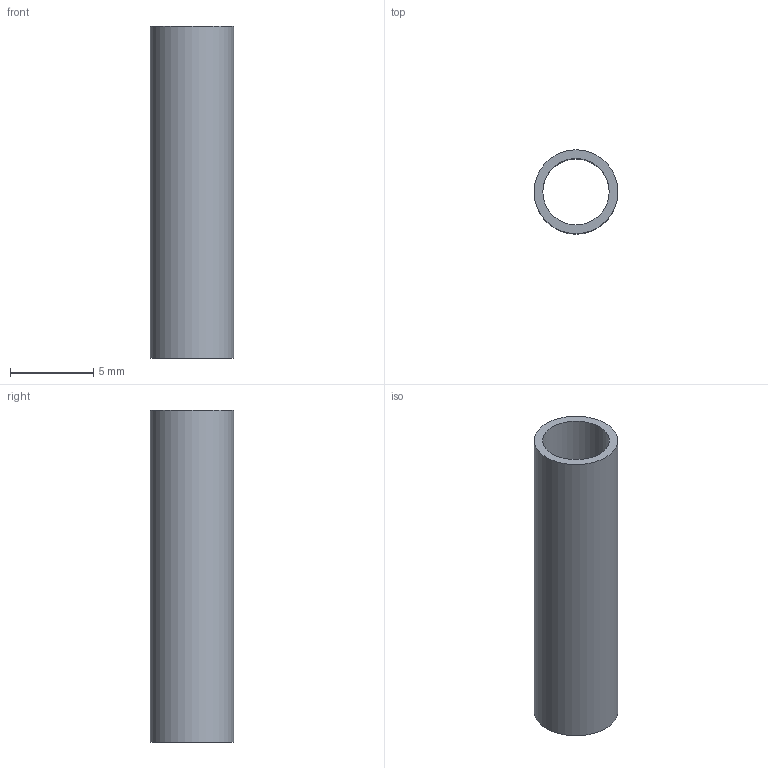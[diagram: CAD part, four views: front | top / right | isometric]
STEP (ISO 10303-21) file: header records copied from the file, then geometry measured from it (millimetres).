
FILE_DESCRIPTION(('Open CASCADE Model'),'2;1');
FILE_NAME('Open CASCADE Shape Model','2026-10-28T05:16:29',('Author'),( 'Open CASCADE'),'Open CASCADE STEP processor 7.8','Open CASCADE 7.8' ,'Unknown');
FILE_SCHEMA(('AUTOMOTIVE_DESIGN { 1 0 10303 214 1 1 1 1 }'));
Length unit declared in the file: millimetre
Products named in the file (1): Open CASCADE STEP translator 7.8 3
Bounding box: 5.05 x 5.05 x 20 mm (x, y, z)
Volume: 149.3 mm3; surface area: 583.6 mm2
Topology: 1 solids, 1 shells, 4 faces, 6 edges, 4 vertices
Faces by surface type: cylinder 2, plane 2
Full cylindrical faces by diameter (mm): 4 x1, 5.05 x1
Entity records: 186 total; most frequent: DIRECTION 32, CARTESIAN_POINT 27, ORIENTED_EDGE 12, PCURVE 12, DEFINITIONAL_REPRESENTATION 12, LINE 10, VECTOR 10, AXIS2_PLACEMENT_3D 9
